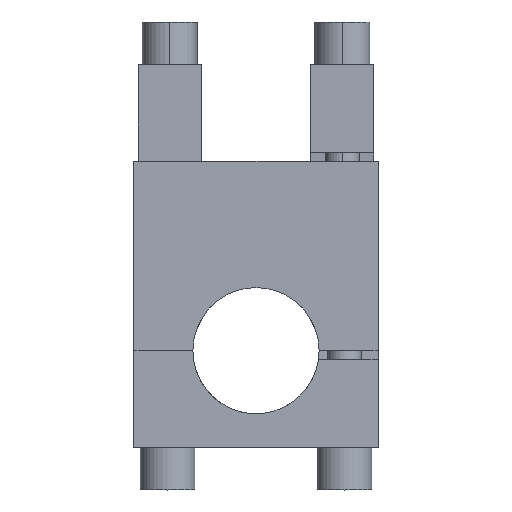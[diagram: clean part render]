
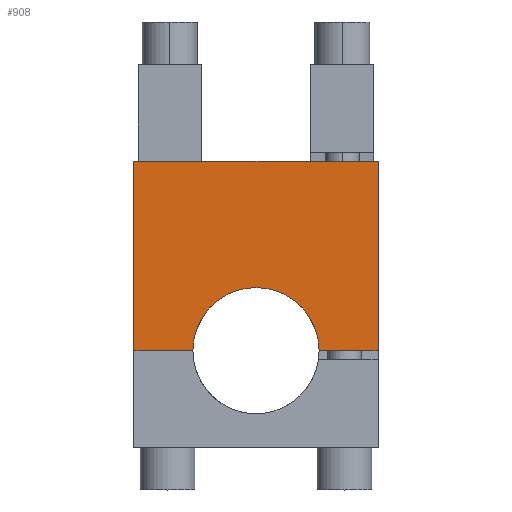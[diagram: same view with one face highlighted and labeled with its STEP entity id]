
A CAD part, left-side view. The second image highlights one B-rep face of the part: STEP entity #908.
In plain terms, the highlighted planar face has unit normal (-1, 0, 0).
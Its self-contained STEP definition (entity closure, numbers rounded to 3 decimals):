
#908=ADVANCED_FACE('Pad.1',(#2259),#2260,.T.);
#2259=FACE_OUTER_BOUND('',#4192,.T.);
#2260=PLANE('',#4193);
#4192=EDGE_LOOP('',(#6520,#6521,#6522,#6523,#6524,#6525));
#4193=AXIS2_PLACEMENT_3D('',#6526,#6527,#6528);
#6520=ORIENTED_EDGE('',*,*,#11775,.F.);
#6521=ORIENTED_EDGE('',*,*,#11776,.F.);
#6522=ORIENTED_EDGE('',*,*,#11777,.F.);
#6523=ORIENTED_EDGE('',*,*,#11768,.T.);
#6524=ORIENTED_EDGE('',*,*,#11765,.T.);
#6525=ORIENTED_EDGE('',*,*,#11778,.F.);
#6526=CARTESIAN_POINT('',(-29.0,0.0,0.));
#6527=DIRECTION('',(-1.0,0.0,0.0));
#6528=DIRECTION('',(0.0,0.0,1.0));
#11765=EDGE_CURVE('',#14224,#14232,#14234,.F.);
#11768=EDGE_CURVE('',#14238,#14224,#14239,.T.);
#11775=EDGE_CURVE('',#14248,#14249,#14250,.T.);
#11776=EDGE_CURVE('',#14251,#14248,#14252,.T.);
#11777=EDGE_CURVE('',#14238,#14251,#14253,.F.);
#11778=EDGE_CURVE('',#14249,#14232,#14254,.T.);
#14224=VERTEX_POINT('',#19359);
#14232=VERTEX_POINT('',#19370);
#14234=LINE('',#19373,#19374);
#14238=VERTEX_POINT('',#19379);
#14239=LINE('',#19380,#19381);
#14248=VERTEX_POINT('',#19391);
#14249=VERTEX_POINT('',#19392);
#14250=CIRCLE('',#19393,15.0);
#14251=VERTEX_POINT('',#19394);
#14252=LINE('',#19395,#19396);
#14253=LINE('',#19397,#19398);
#14254=LINE('',#19399,#19400);
#19359=CARTESIAN_POINT('',(-29.0,29.0,45.0));
#19370=CARTESIAN_POINT('',(-29.0,29.0,0.));
#19373=CARTESIAN_POINT('',(-29.0,29.0,22.5));
#19374=VECTOR('',#24850,1.0);
#19379=CARTESIAN_POINT('',(-29.0,-29.0,45.0));
#19380=CARTESIAN_POINT('',(-29.0,0.0,45.0));
#19381=VECTOR('',#24852,1.0);
#19391=CARTESIAN_POINT('',(-29.0,-15.0,0.));
#19392=CARTESIAN_POINT('',(-29.0,15.0,0.0));
#19393=AXIS2_PLACEMENT_3D('',#24866,#24867,#24868);
#19394=CARTESIAN_POINT('',(-29.0,-29.0,0.));
#19395=CARTESIAN_POINT('',(-29.0,-22.0,0.));
#19396=VECTOR('',#24869,1.0);
#19397=CARTESIAN_POINT('',(-29.0,-29.0,22.5));
#19398=VECTOR('',#24870,1.0);
#19399=CARTESIAN_POINT('',(-29.0,22.0,0.));
#19400=VECTOR('',#24871,1.0);
#24850=DIRECTION('',(0.0,0.0,1.0));
#24852=DIRECTION('',(0.0,1.0,0.0));
#24866=CARTESIAN_POINT('',(-29.0,0.,0.));
#24867=DIRECTION('',(-1.0,0.0,0.0));
#24868=DIRECTION('',(0.0,0.0,1.0));
#24869=DIRECTION('',(0.0,1.0,0.0));
#24870=DIRECTION('',(0.0,0.0,1.0));
#24871=DIRECTION('',(0.0,1.0,0.0));
